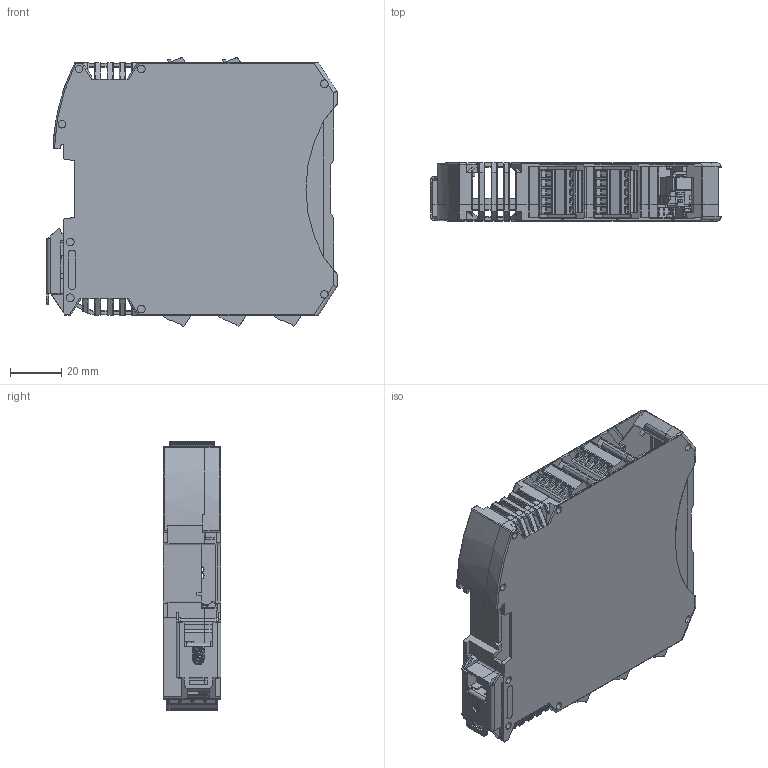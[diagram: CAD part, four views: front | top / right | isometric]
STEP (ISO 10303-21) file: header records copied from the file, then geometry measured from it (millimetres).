
FILE_DESCRIPTION(/* description */ (''),/* implementation_level */ '2;1');
FILE_NAME(/* name */ 'LA-5923-1010-02-A_REN-I_O HARDWARE.stp',/* time_stamp */ '2022-11-15T08:30:38+00:00',/* author */ (''),/* organization */ (''),/* preprocessor_version */ 'ST-DEVELOPER v16.7',/* originating_system */ 'SIEMENS PLM Software NX 1946',/* authorisation */ '');
FILE_SCHEMA (('AUTOMOTIVE_DESIGN { 1 0 10303 214 3 1 1 1 }'));
Length unit declared in the file: millimetre
Products named in the file (7): A-5923-0540-03-A_EQ-I_O MK2 PCB ASSEMBLY; P-CN47-0082-A_Term Block 4W 5mm Plg Str; M-5923-2049-03-A_REN-I_O FRONT PANEL; P-CN47-0083-A_Term Block 5W 3.5mm Plg Str; P-CN34-0038-A_Electronic Housing 22.5mm Wide 3-3 Grey; A-5923-0545-03-A_REN-I_O PCB PROGRAMMED_NO_DIN; A-5923-1010-02-A_REN-I_O HARDWARE
Assembly tree (9 placements, depth 3):
  A-5923-1010-02-A_REN-I_O HARDWARE
    P-CN34-0038-A_Electronic Housing 22.5mm Wide 3-3 Grey
    A-5923-0545-03-A_REN-I_O PCB PROGRAMMED_NO_DIN
      A-5923-0540-03-A_EQ-I_O MK2 PCB ASSEMBLY
    P-CN47-0083-A_Term Block 5W 3.5mm Plg Str  x2
    M-5923-2049-03-A_REN-I_O FRONT PANEL
    P-CN47-0082-A_Term Block 4W 5mm Plg Str  x3
Bounding box: 113.65 x 22.6 x 105.55 mm (x, y, z)
Volume: 62996.1 mm3; surface area: 89177.8 mm2
Topology: 17 solids, 17 shells, 5792 faces, 16376 edges, 10933 vertices
Faces by surface type: plane 4131, cylinder 1486, cone 105, torus 62, bspline 8
Full cylindrical faces by diameter (mm): 1.2 x10, 1.4 x12, 1.6 x10, 2.2 x16, 2.8 x12
Entity records: 176264 total; most frequent: CARTESIAN_POINT 36113, ORIENTED_EDGE 27632, DIRECTION 26002, EDGE_CURVE 13816, LINE 10292, VECTOR 10292, VERTEX_POINT 9277, AXIS2_PLACEMENT_3D 7855
